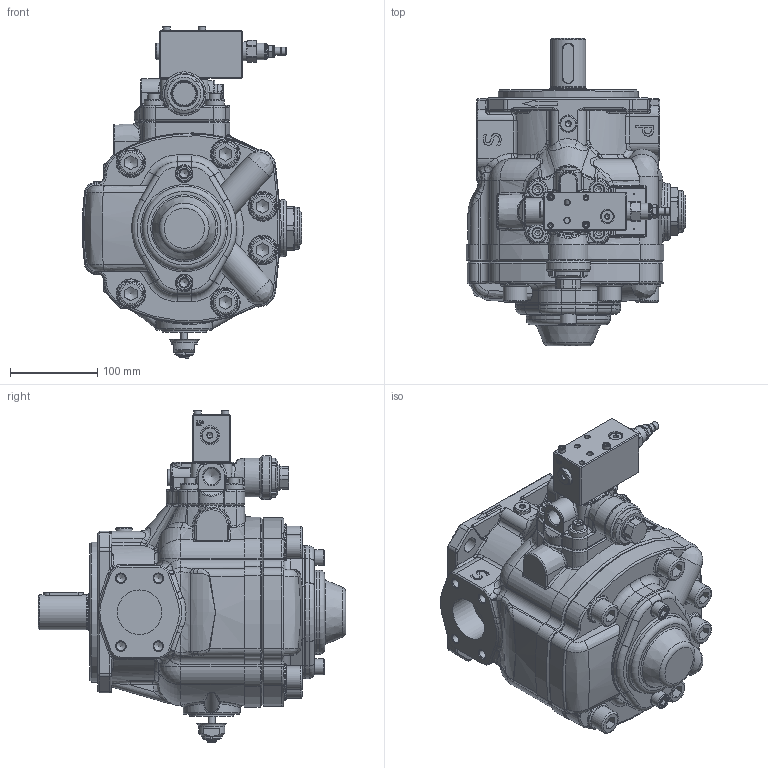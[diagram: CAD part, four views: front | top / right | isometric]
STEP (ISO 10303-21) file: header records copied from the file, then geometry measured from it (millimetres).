
FILE_DESCRIPTION(/* description */ (''),/* implementation_level */ '2;1');
FILE_NAME(/* name */ 'W:\Tecnico\Archivio\Berarma\Dimensioni Pompe\3D Export\Montaggio 3D semplificato\PLP-PHP 3\PHP 3 -A PCS003.stp',/* time_stamp */ '2018-10-10T08:49:35+02:00',/* author */ ('marcop'),/* organization */ (''),/* preprocessor_version */ 'ST-DEVELOPER v17',/* originating_system */ 'Autodesk Inventor 2018',/* authorisation */ '');
FILE_SCHEMA (('AUTOMOTIVE_DESIGN { 1 0 10303 214 3 1 1 }'));
Products named in the file (1): PLP-PHP 3_Shrinkwrap_1
Bounding box: 251.18 x 352 x 380.1 mm (x, y, z)
Volume: 7053567.6 mm3; surface area: 592876.1 mm2
Topology: 2 solids, 2 shells, 2268 faces, 5776 edges, 3570 vertices
Faces by surface type: plane 780, cylinder 514, bspline 459, torus 248, cone 223, sphere 44
Full cylindrical faces by diameter (mm): 0.9 x3, 1.7 x4, 3 x2, 3.15 x1, 4 x1, 4.134 x2, 5.5 x2, 6 x2, 6.5 x3, 7.2 x1, 7.671 x2, 8 x1, 8.376 x4, 8.5 x2, 8.566 x2, 9.347 x2, 9.5 x1, 10.106 x4, 11.445 x1, 12 x5, 13 x4, 13.487 x1, 13.5 x1, 13.767 x2, 14 x3, 14.224 x1, 14.63 x1, 15.5 x1, 16 x2, 17.374 x1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
Entity records: 85723 total; most frequent: CARTESIAN_POINT 31347, ORIENTED_EDGE 11382, DIRECTION 10299, EDGE_CURVE 5691, AXIS2_PLACEMENT_3D 4055, VERTEX_POINT 3570, EDGE_LOOP 2427, STYLED_ITEM 2270
